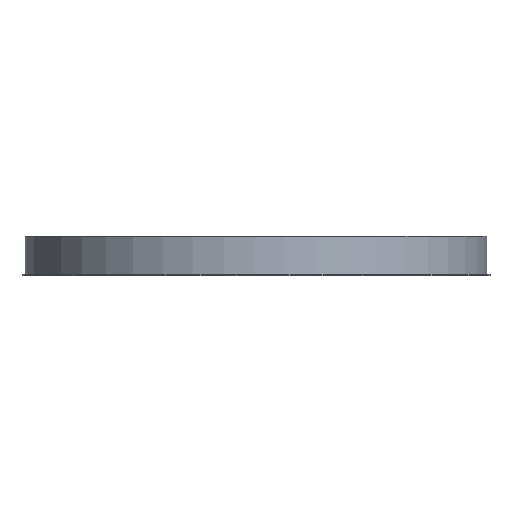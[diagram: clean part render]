
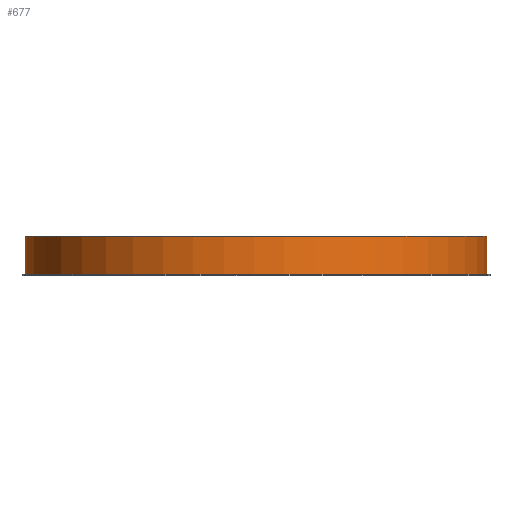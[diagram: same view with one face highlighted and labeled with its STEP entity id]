
A CAD part, front view. The second image highlights one B-rep face of the part: STEP entity #677.
In plain terms, the highlighted cylindrical face has radius 452 mm (diameter 904 mm), a full revolution.
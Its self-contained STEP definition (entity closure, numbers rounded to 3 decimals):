
#181=CYLINDRICAL_SURFACE('',#4118,452.);
#398=B_SPLINE_CURVE_WITH_KNOTS('',1,(#16730,#16731),.UNSPECIFIED.,.F.,.F.,
(2,2),(467.,542.),.UNSPECIFIED.);
#677=ADVANCED_FACE('',(#930),#181,.T.);
#930=FACE_OUTER_BOUND('',#1249,.T.);
#1249=EDGE_LOOP('',(#2317,#2318,#2319,#2320));
#2317=ORIENTED_EDGE('',*,*,#2912,.T.);
#2318=ORIENTED_EDGE('',*,*,#2906,.F.);
#2319=ORIENTED_EDGE('',*,*,#2911,.F.);
#2320=ORIENTED_EDGE('',*,*,#2906,.T.);
#2906=EDGE_CURVE('',#3293,#3292,#398,.T.);
#2911=EDGE_CURVE('',#3293,#3293,#3814,.T.);
#2912=EDGE_CURVE('',#3292,#3292,#3815,.T.);
#3292=VERTEX_POINT('',#16557);
#3293=VERTEX_POINT('',#16558);
#3814=(
BOUNDED_CURVE()
B_SPLINE_CURVE(2,(#16754,#16755,#16756,#16757,#16758,#16759,#16760,#16761,
#16762),.UNSPECIFIED.,.T.,.F.)
B_SPLINE_CURVE_WITH_KNOTS((3,2,2,2,3),(0.,710.,1420.,
2130.,2840.),.UNSPECIFIED.)
CURVE()
GEOMETRIC_REPRESENTATION_ITEM()
RATIONAL_B_SPLINE_CURVE((1.,0.707,1.,0.707,1.,0.707,
1.,0.707,1.))
REPRESENTATION_ITEM('')
);
#3815=(
BOUNDED_CURVE()
B_SPLINE_CURVE(2,(#16763,#16764,#16765,#16766,#16767,#16768,#16769,#16770,
#16771),.UNSPECIFIED.,.T.,.F.)
B_SPLINE_CURVE_WITH_KNOTS((3,2,2,2,3),(0.,710.,1420.,
2130.,2840.),.UNSPECIFIED.)
CURVE()
GEOMETRIC_REPRESENTATION_ITEM()
RATIONAL_B_SPLINE_CURVE((1.,0.707,1.,0.707,1.,0.707,
1.,0.707,1.))
REPRESENTATION_ITEM('')
);
#4118=AXIS2_PLACEMENT_3D('',#16235,#4318,$);
#4318=DIRECTION('',(0.,0.,-1.));
#16235=CARTESIAN_POINT('',(0.,0.,40.5));
#16557=CARTESIAN_POINT('',(-452.,0.,78.));
#16558=CARTESIAN_POINT('',(-452.,0.,3.));
#16730=CARTESIAN_POINT('',(-452.,0.,3.));
#16731=CARTESIAN_POINT('',(-452.,0.,78.));
#16754=CARTESIAN_POINT('',(-452.,0.,3.));
#16755=CARTESIAN_POINT('',(-452.,452.,3.));
#16756=CARTESIAN_POINT('',(0.,452.,3.));
#16757=CARTESIAN_POINT('',(452.,452.,3.));
#16758=CARTESIAN_POINT('',(452.,0.,3.));
#16759=CARTESIAN_POINT('',(452.,-452.,3.));
#16760=CARTESIAN_POINT('',(0.,-452.,3.));
#16761=CARTESIAN_POINT('',(-452.,-452.,3.));
#16762=CARTESIAN_POINT('',(-452.,0.,3.));
#16763=CARTESIAN_POINT('',(-452.,0.,78.));
#16764=CARTESIAN_POINT('',(-452.,452.,78.));
#16765=CARTESIAN_POINT('',(0.,452.,78.));
#16766=CARTESIAN_POINT('',(452.,452.,78.));
#16767=CARTESIAN_POINT('',(452.,0.,78.));
#16768=CARTESIAN_POINT('',(452.,-452.,78.));
#16769=CARTESIAN_POINT('',(0.,-452.,78.));
#16770=CARTESIAN_POINT('',(-452.,-452.,78.));
#16771=CARTESIAN_POINT('',(-452.,0.,78.));
